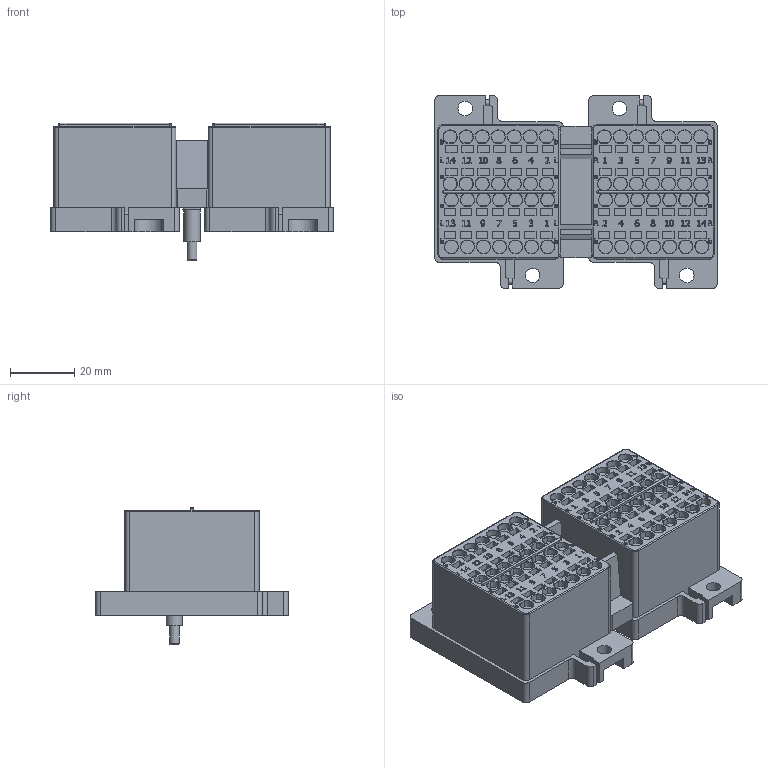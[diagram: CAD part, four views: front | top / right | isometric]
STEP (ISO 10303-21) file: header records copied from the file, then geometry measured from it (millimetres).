
FILE_DESCRIPTION(/* description */ (''),/* implementation_level */ '2;1');
FILE_NAME(/* name */ 'I:\TI\Inventor\Relais\Voeten\PTR V33N en V29N\V33N\NEW\PARTS\SOLID\V88-SOCKET SOLID (20-07-21).stp',/* time_stamp */ '2021-07-20T13:06:02+02:00',/* author */ ('nbinnendijk'),/* organization */ (''),/* preprocessor_version */ 'ST-DEVELOPER v18',/* originating_system */ 'Autodesk Inventor 2020',/* authorisation */ '');
FILE_SCHEMA (('AUTOMOTIVE_DESIGN { 1 0 10303 214 3 1 1 }'));
Products named in the file (1): V88-SOCKET SOLID_Shrinkwrap_1
Bounding box: 88 x 60 x 42.9 mm (x, y, z)
Volume: 103506 mm3; surface area: 28599.5 mm2
Topology: 1 solids, 1 shells, 2472 faces, 6573 edges, 4261 vertices
Faces by surface type: plane 1557, bspline 534, cylinder 284, torus 93, sphere 4
Full cylindrical faces by diameter (mm): 3 x1, 4.5 x4, 5 x1
Entity records: 82099 total; most frequent: CARTESIAN_POINT 23115, ORIENTED_EDGE 13142, DIRECTION 9719, EDGE_CURVE 6571, LINE 4829, VECTOR 4829, VERTEX_POINT 4261, EDGE_LOOP 2696
